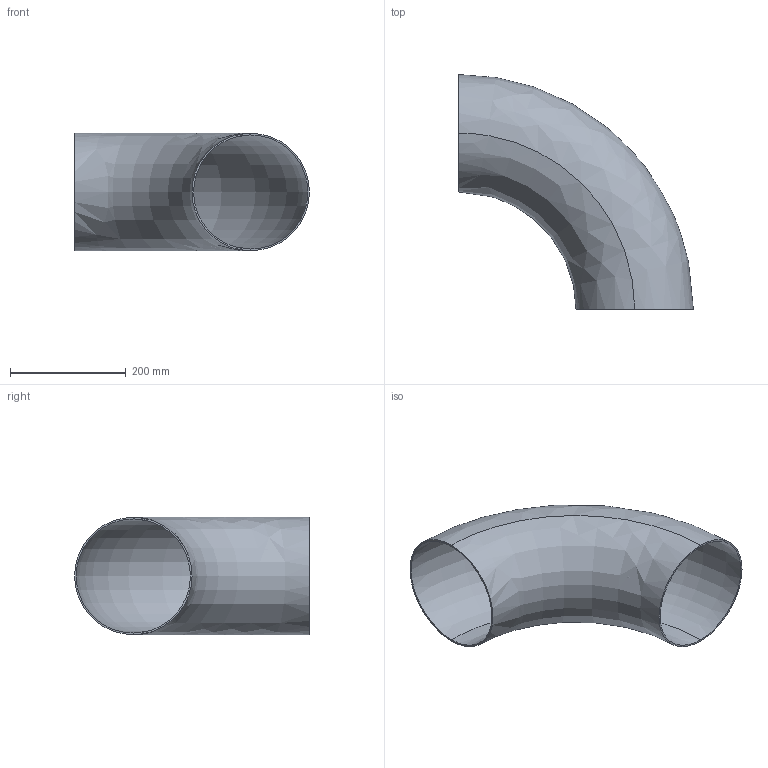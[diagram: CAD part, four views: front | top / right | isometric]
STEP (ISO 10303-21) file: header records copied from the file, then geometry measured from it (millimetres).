
FILE_DESCRIPTION (( 'STEP AP203' ), '1' );
FILE_NAME ('2WCL8.0.STEP', '2018-04-30T15:20:17', ( 'vneprd' ), ( 'Microsoft' ), 'SwSTEP 2.0', 'SolidWorks 2014', '' );
FILE_SCHEMA (( 'CONFIG_CONTROL_DESIGN' ));
Length unit declared in the file: inch
Products named in the file (1): 2WCL8.0
Bounding box: 406.4 x 406.4 x 203.2 mm (x, y, z)
Volume: 834704.2 mm3; surface area: 606394.4 mm2
Topology: 1 solids, 1 shells, 6 faces, 12 edges, 8 vertices
Faces by surface type: bspline 4, plane 2
Entity records: 14252 total; most frequent: CARTESIAN_POINT 14066, ORIENTED_EDGE 24, DIRECTION 14, EDGE_CURVE 12, VERTEX_POINT 8, B_SPLINE_CURVE_WITH_KNOTS 8, PERSON_AND_ORGANIZATION 8, EDGE_LOOP 8
